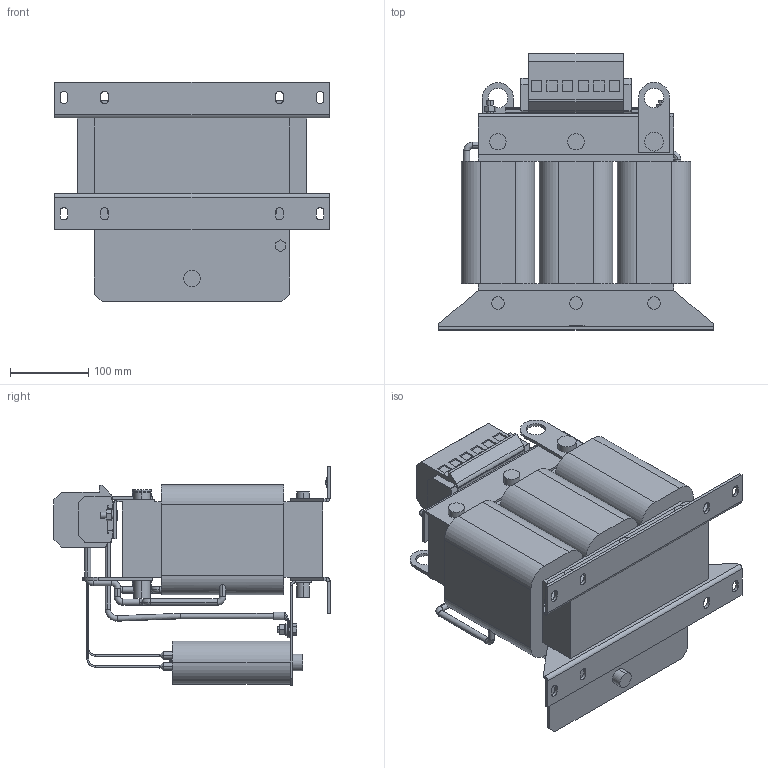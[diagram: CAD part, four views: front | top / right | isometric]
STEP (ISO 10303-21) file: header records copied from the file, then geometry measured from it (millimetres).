
FILE_DESCRIPTION (( 'STEP AP214' ), '1' );
FILE_NAME ('00Z1GX4-0021.STEP', '2022-11-16T10:20:03', ( '' ), ( '' ), 'SwSTEP 2.0', 'SolidWorks 2022', '' );
FILE_SCHEMA (( 'AUTOMOTIVE_DESIGN' ));
Length unit declared in the file: centimetre
Products named in the file (1): 00Z1GX4-0021
Bounding box: 352 x 353.9 x 281.7 mm (x, y, z)
Volume: 10036203.4 mm3; surface area: 682006.9 mm2
Topology: 1 solids, 1 shells, 688 faces, 1770 edges, 1123 vertices
Faces by surface type: plane 314, cylinder 247, torus 68, bspline 53, cone 6
Entity records: 29349 total; most frequent: CARTESIAN_POINT 12316, ORIENTED_EDGE 3540, DIRECTION 3474, EDGE_CURVE 1770, AXIS2_PLACEMENT_3D 1283, VERTEX_POINT 1123, LINE 908, VECTOR 908
